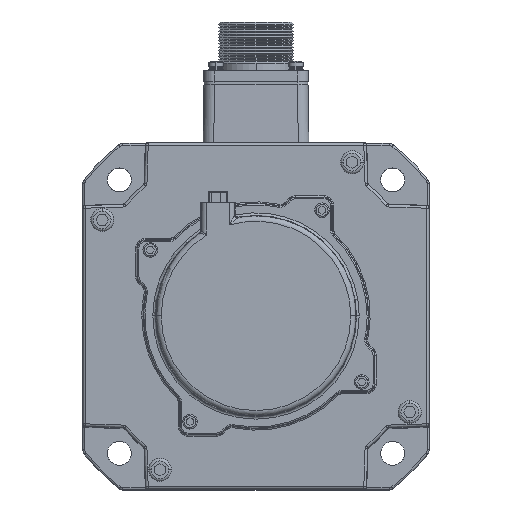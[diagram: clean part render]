
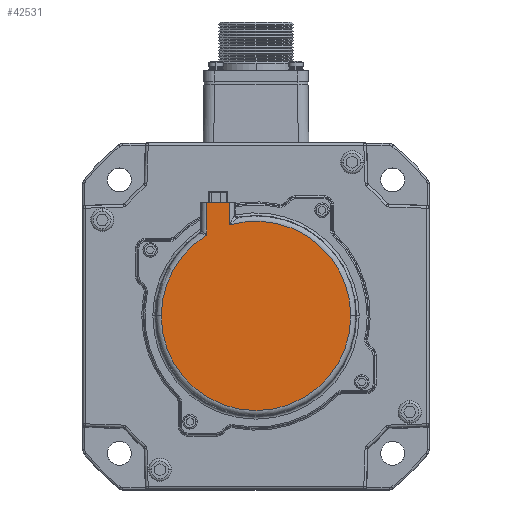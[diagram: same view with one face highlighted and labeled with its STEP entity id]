
A CAD part, top view. The second image highlights one B-rep face of the part: STEP entity #42531.
In plain terms, the highlighted planar face has unit normal (0, 0, 1).
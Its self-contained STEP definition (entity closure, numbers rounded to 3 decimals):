
#1375 = VERTEX_POINT ( 'NONE', #83382 ) ;
#3910 = AXIS2_PLACEMENT_3D ( 'NONE', #94755, #36566, #104524 ) ;
#5669 = LINE ( 'NONE', #8370, #106080 ) ;
#7906 = VECTOR ( 'NONE', #106691, 1000. ) ;
#8370 = CARTESIAN_POINT ( 'NONE',  ( -16.872, -13.773, -4.037 ) ) ;
#9206 = DIRECTION ( 'NONE',  ( 1., 0., 0. ) ) ;
#10012 = VECTOR ( 'NONE', #87559, 1000. ) ;
#12897 = CARTESIAN_POINT ( 'NONE',  ( -8.872, -56.273, -4.037 ) ) ;
#14003 = LINE ( 'NONE', #38709, #7906 ) ;
#15424 = AXIS2_PLACEMENT_3D ( 'NONE', #12897, #80752, #22655 ) ;
#17162 = EDGE_CURVE ( 'NONE', #1375, #52031, #110299, .T. ) ;
#18073 = ORIENTED_EDGE ( 'NONE', *, *, #55753, .T. ) ;
#20846 = EDGE_CURVE ( 'NONE', #39039, #1375, #42552, .T. ) ;
#22655 = DIRECTION ( 'NONE',  ( 1., 0., 0. ) ) ;
#23128 = CARTESIAN_POINT ( 'NONE',  ( -27.4, -13.773, -4.037 ) ) ;
#23369 = PLANE ( 'NONE',  #59465 ) ;
#27620 = CARTESIAN_POINT ( 'NONE',  ( -18.844, -13.773, -4.037 ) ) ;
#27918 = DIRECTION ( 'NONE',  ( 1., 0., 0. ) ) ;
#35150 = EDGE_CURVE ( 'NONE', #80685, #78323, #14003, .T. ) ;
#36393 = ORIENTED_EDGE ( 'NONE', *, *, #20846, .T. ) ;
#36566 = DIRECTION ( 'NONE',  ( 0., 0., 1. ) ) ;
#37714 = ORIENTED_EDGE ( 'NONE', *, *, #38877, .F. ) ;
#38709 = CARTESIAN_POINT ( 'NONE',  ( -27.4, -24.873, -4.037 ) ) ;
#38877 = EDGE_CURVE ( 'NONE', #80685, #52031, #5669, .T. ) ;
#39039 = VERTEX_POINT ( 'NONE', #89366 ) ;
#42531 = ADVANCED_FACE ( 'NONE', ( #103753 ), #23369, .T. ) ;
#42552 = CIRCLE ( 'NONE', #107322, 35.528 ) ;
#42895 = DIRECTION ( 'NONE',  ( 1., 0., 0. ) ) ;
#49009 = CARTESIAN_POINT ( 'NONE',  ( -18.844, -13.773, -4.037 ) ) ;
#51096 = VERTEX_POINT ( 'NONE', #99722 ) ;
#52031 = VERTEX_POINT ( 'NONE', #27620 ) ;
#55753 = EDGE_CURVE ( 'NONE', #51096, #39039, #86743, .T. ) ;
#59465 = AXIS2_PLACEMENT_3D ( 'NONE', #91263, #101122, #42895 ) ;
#65668 = EDGE_CURVE ( 'NONE', #78323, #51096, #113506, .T. ) ;
#67402 = DIRECTION ( 'NONE',  ( 0., 0., 1. ) ) ;
#78323 = VERTEX_POINT ( 'NONE', #81775 ) ;
#80685 = VERTEX_POINT ( 'NONE', #23128 ) ;
#80752 = DIRECTION ( 'NONE',  ( 0., 0., 1. ) ) ;
#81695 = ORIENTED_EDGE ( 'NONE', *, *, #35150, .T. ) ;
#81775 = CARTESIAN_POINT ( 'NONE',  ( -27.4, -25.959, -4.037 ) ) ;
#83382 = CARTESIAN_POINT ( 'NONE',  ( -18.844, -22.174, -4.037 ) ) ;
#86493 = ORIENTED_EDGE ( 'NONE', *, *, #17162, .T. ) ;
#86743 = CIRCLE ( 'NONE', #15424, 35.528 ) ;
#87559 = DIRECTION ( 'NONE',  ( 0., 1., 0. ) ) ;
#89366 = CARTESIAN_POINT ( 'NONE',  ( 26.656, -56.273, -4.037 ) ) ;
#91263 = CARTESIAN_POINT ( 'NONE',  ( -8.872, -56.273, -4.037 ) ) ;
#94755 = CARTESIAN_POINT ( 'NONE',  ( -8.872, -56.273, -4.037 ) ) ;
#99722 = CARTESIAN_POINT ( 'NONE',  ( -44.4, -56.273, -4.037 ) ) ;
#100871 = EDGE_LOOP ( 'NONE', ( #37714, #81695, #125908, #18073, #36393, #86493 ) ) ;
#101122 = DIRECTION ( 'NONE',  ( 0., 0., 1. ) ) ;
#103753 = FACE_OUTER_BOUND ( 'NONE', #100871, .T. ) ;
#104524 = DIRECTION ( 'NONE',  ( 1., 0., 0. ) ) ;
#106080 = VECTOR ( 'NONE', #27918, 1000. ) ;
#106691 = DIRECTION ( 'NONE',  ( 0., -1., 0. ) ) ;
#107322 = AXIS2_PLACEMENT_3D ( 'NONE', #125559, #67402, #9206 ) ;
#110299 = LINE ( 'NONE', #49009, #10012 ) ;
#113506 = CIRCLE ( 'NONE', #3910, 35.528 ) ;
#125559 = CARTESIAN_POINT ( 'NONE',  ( -8.872, -56.273, -4.037 ) ) ;
#125908 = ORIENTED_EDGE ( 'NONE', *, *, #65668, .T. ) ;
